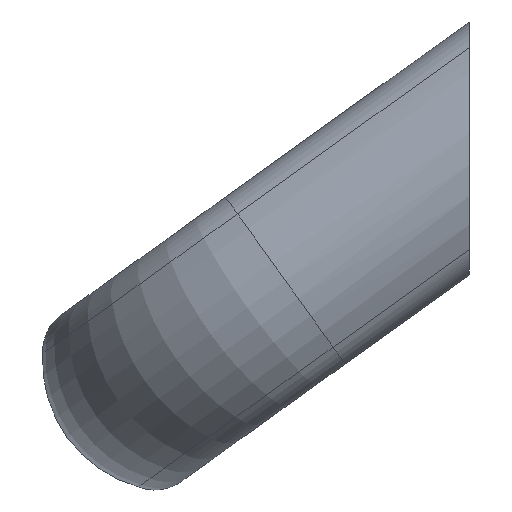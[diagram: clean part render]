
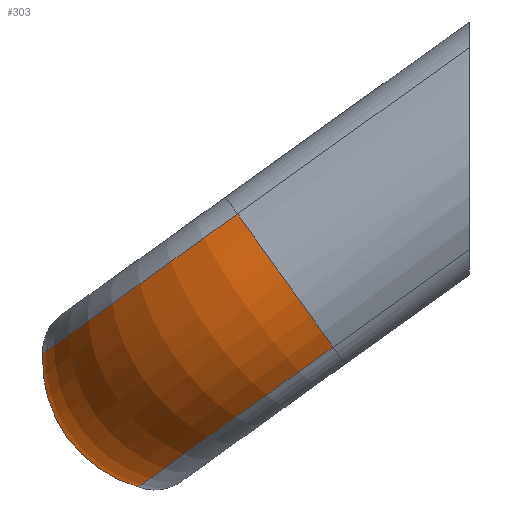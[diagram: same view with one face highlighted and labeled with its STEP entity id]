
A CAD part, left-side view. The second image highlights one B-rep face of the part: STEP entity #303.
In plain terms, the highlighted toroidal (fillet/blend) face has major radius 17.484 mm and minor radius 16.516 mm.
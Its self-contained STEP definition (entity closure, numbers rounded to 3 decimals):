
#91 = EDGE_CURVE ( 'NONE', #97, #93, #613, .T. ) ;
#93 = VERTEX_POINT ( 'NONE', #534 ) ;
#97 = VERTEX_POINT ( 'NONE', #481 ) ;
#150 = VERTEX_POINT ( 'NONE', #740 ) ;
#264 = ORIENTED_EDGE ( 'NONE', *, *, #91, .F. ) ;
#275 = ORIENTED_EDGE ( 'NONE', *, *, #297, .T. ) ;
#297 = EDGE_CURVE ( 'NONE', #150, #93, #909, .T. ) ;
#298 = VERTEX_POINT ( 'NONE', #901 ) ;
#303 = ADVANCED_FACE ( 'NONE', ( #887 ), #789, .T. ) ;
#311 = EDGE_LOOP ( 'NONE', ( #275, #264, #380, #395 ) ) ;
#367 = EDGE_CURVE ( 'NONE', #298, #150, #917, .T. ) ;
#369 = EDGE_CURVE ( 'NONE', #298, #97, #941, .T. ) ;
#380 = ORIENTED_EDGE ( 'NONE', *, *, #369, .F. ) ;
#395 = ORIENTED_EDGE ( 'NONE', *, *, #367, .T. ) ;
#481 = CARTESIAN_POINT ( 'NONE',  ( -38.5, 41.876, -40.816 ) ) ;
#528 = CARTESIAN_POINT ( 'NONE',  ( -38.5, 37.485, -24.895 ) ) ;
#533 = DIRECTION ( 'NONE',  ( 1., 0., 0. ) ) ;
#534 = CARTESIAN_POINT ( 'NONE',  ( -38.5, 53.974, -23.955 ) ) ;
#611 = DIRECTION ( 'NONE',  ( 0., 0., -1. ) ) ;
#612 = AXIS2_PLACEMENT_3D ( 'NONE', #528, #533, #611 ) ;
#613 = CIRCLE ( 'NONE', #612, 16.516 ) ;
#740 = CARTESIAN_POINT ( 'NONE',  ( -68.834, 29.327, -6.272 ) ) ;
#789 = TOROIDAL_SURFACE ( 'NONE', #798, 17.484, 16.516 ) ;
#795 = DIRECTION ( 'NONE',  ( 0., 0.583, 0.813 ) ) ;
#797 = CARTESIAN_POINT ( 'NONE',  ( -38.5, 23.279, -14.702 ) ) ;
#798 = AXIS2_PLACEMENT_3D ( 'NONE', #797, #795, #820 ) ;
#800 = DIRECTION ( 'NONE',  ( 0., -0.813, 0.583 ) ) ;
#801 = DIRECTION ( 'NONE',  ( 0., -0.583, -0.813 ) ) ;
#802 = AXIS2_PLACEMENT_3D ( 'NONE', #899, #801, #800 ) ;
#820 = DIRECTION ( 'NONE',  ( 0., -0.813, 0.583 ) ) ;
#887 = FACE_OUTER_BOUND ( 'NONE', #311, .T. ) ;
#899 = CARTESIAN_POINT ( 'NONE',  ( -38.5, 29.327, -6.272 ) ) ;
#901 = CARTESIAN_POINT ( 'NONE',  ( -68.834, 17.23, -23.133 ) ) ;
#909 = CIRCLE ( 'NONE', #802, 30.334 ) ;
#914 = CARTESIAN_POINT ( 'NONE',  ( -55.984, 23.279, -14.702 ) ) ;
#917 = CIRCLE ( 'NONE', #949, 16.516 ) ;
#918 = AXIS2_PLACEMENT_3D ( 'NONE', #935, #934, #933 ) ;
#927 = DIRECTION ( 'NONE',  ( -0.583, -0.474, -0.66 ) ) ;
#928 = DIRECTION ( 'NONE',  ( 0., 0.813, -0.583 ) ) ;
#933 = DIRECTION ( 'NONE',  ( 0., -0.813, 0.583 ) ) ;
#934 = DIRECTION ( 'NONE',  ( 0., -0.583, -0.813 ) ) ;
#935 = CARTESIAN_POINT ( 'NONE',  ( -38.5, 17.23, -23.133 ) ) ;
#941 = CIRCLE ( 'NONE', #918, 30.334 ) ;
#949 = AXIS2_PLACEMENT_3D ( 'NONE', #914, #928, #927 ) ;
